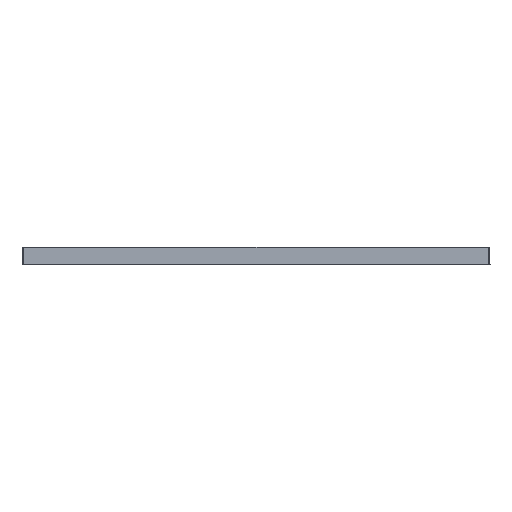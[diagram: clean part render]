
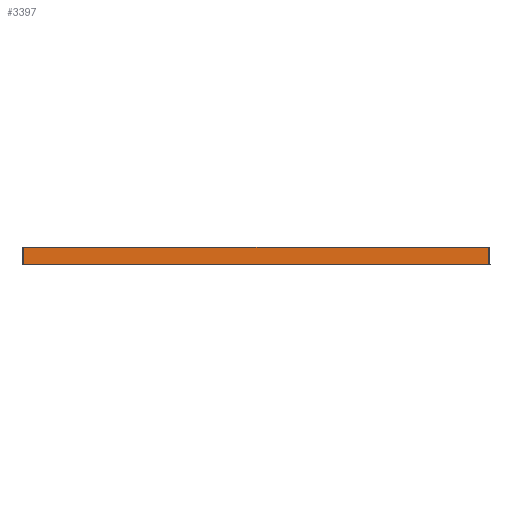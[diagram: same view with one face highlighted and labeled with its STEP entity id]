
A CAD part, front view. The second image highlights one B-rep face of the part: STEP entity #3397.
In plain terms, the highlighted planar face has unit normal (0, 1, -0.018).
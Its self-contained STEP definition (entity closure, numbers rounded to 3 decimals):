
#20 = CARTESIAN_POINT ( 'NONE',  ( -66.34, -1316.935, -1.53 ) ) ;
#106 = CARTESIAN_POINT ( 'NONE',  ( 33.155, -1316.935, -1.498 ) ) ;
#139 = CARTESIAN_POINT ( 'NONE',  ( -398.786, -1317.432, -30. ) ) ;
#433 = ORIENTED_EDGE ( 'NONE', *, *, #2285, .T. ) ;
#522 = ORIENTED_EDGE ( 'NONE', *, *, #1275, .T. ) ;
#715 = CARTESIAN_POINT ( 'NONE',  ( 397.967, -1316.91, -0.09 ) ) ;
#744 = CARTESIAN_POINT ( 'NONE',  ( -397.967, -1316.91, -0.09 ) ) ;
#1275 = EDGE_CURVE ( 'NONE', #9301, #3707, #1724, .T. ) ;
#1429 = CARTESIAN_POINT ( 'NONE',  ( -132.67, -1316.938, -1.66 ) ) ;
#1724 = B_SPLINE_CURVE_WITH_KNOTS ( 'NONE', 3,
 ( #9474, #11850, #5309, #6803, #2490, #12206, #10704, #13539, #9218, #5474, #7872, #3915, #8051, #6709, #1429, #20, #16004, #106, #13275, #16091, #9567, #6532, #4177, #17246, #4002, #10877, #5389, #9303, #13189, #5141, #9393, #10541, #14766, #15916 ),
 .UNSPECIFIED., .F., .F.,
 ( 4, 2, 2, 2, 2, 2, 2, 2, 2, 2, 2, 2, 2, 2, 2, 2, 4 ),
 ( 0., 0.025, 0.05, 0.099, 0.124, 0.149, 0.199, 0.298, 0.398, 0.497, 0.597, 0.647, 0.672, 0.696, 0.746, 0.771, 0.796 ),
 .UNSPECIFIED. ) ;
#2226 = DIRECTION ( 'NONE',  ( 0.026, 0.017, 1. ) ) ;
#2244 = CARTESIAN_POINT ( 'NONE',  ( 398.003, -1316.91, -0.088 ) ) ;
#2278 = ORIENTED_EDGE ( 'NONE', *, *, #16770, .F. ) ;
#2285 = EDGE_CURVE ( 'NONE', #2766, #9675, #15757, .T. ) ;
#2389 = B_SPLINE_CURVE_WITH_KNOTS ( 'NONE', 3,
 ( #14932, #2828, #11134, #8124 ),
 .UNSPECIFIED., .F., .F.,
 ( 4, 4 ),
 ( 0., 0. ),
 .UNSPECIFIED. ) ;
#2490 = CARTESIAN_POINT ( 'NONE',  ( -356.525, -1316.935, -1.522 ) ) ;
#2502 = CARTESIAN_POINT ( 'NONE',  ( 0., -1316.507, 22.98 ) ) ;
#2761 = CARTESIAN_POINT ( 'NONE',  ( 440.864, -1317.432, -30. ) ) ;
#2766 = VERTEX_POINT ( 'NONE', #3231 ) ;
#2828 = CARTESIAN_POINT ( 'NONE',  ( -397.991, -1316.91, -0.089 ) ) ;
#3231 = CARTESIAN_POINT ( 'NONE',  ( 398.003, -1316.91, -0.088 ) ) ;
#3386 = CARTESIAN_POINT ( 'NONE',  ( 398.786, -1317.432, -30. ) ) ;
#3397 = ADVANCED_FACE ( 'NONE', ( #14603 ), #13376, .T. ) ;
#3707 = VERTEX_POINT ( 'NONE', #715 ) ;
#3915 = CARTESIAN_POINT ( 'NONE',  ( -232.165, -1316.944, -2.015 ) ) ;
#4002 = CARTESIAN_POINT ( 'NONE',  ( 265.313, -1316.946, -2.124 ) ) ;
#4177 = CARTESIAN_POINT ( 'NONE',  ( 232.148, -1316.944, -2.015 ) ) ;
#4277 = DIRECTION ( 'NONE',  ( 1., 0., 0. ) ) ;
#4612 = CARTESIAN_POINT ( 'NONE',  ( 397.967, -1316.91, -0.09 ) ) ;
#4880 = EDGE_CURVE ( 'NONE', #3707, #2766, #14947, .T. ) ;
#5141 = CARTESIAN_POINT ( 'NONE',  ( 356.515, -1316.935, -1.522 ) ) ;
#5309 = CARTESIAN_POINT ( 'NONE',  ( -381.391, -1316.922, -0.773 ) ) ;
#5389 = CARTESIAN_POINT ( 'NONE',  ( 290.187, -1316.946, -2.162 ) ) ;
#5474 = CARTESIAN_POINT ( 'NONE',  ( -265.33, -1316.946, -2.125 ) ) ;
#5569 = CARTESIAN_POINT ( 'NONE',  ( 397.991, -1316.91, -0.089 ) ) ;
#6460 = ORIENTED_EDGE ( 'NONE', *, *, #11238, .T. ) ;
#6532 = CARTESIAN_POINT ( 'NONE',  ( 215.565, -1316.943, -1.947 ) ) ;
#6544 = DIRECTION ( 'NONE',  ( 0., 0.017, 1. ) ) ;
#6709 = CARTESIAN_POINT ( 'NONE',  ( -165.835, -1316.939, -1.76 ) ) ;
#6803 = CARTESIAN_POINT ( 'NONE',  ( -364.814, -1316.931, -1.308 ) ) ;
#7023 = CARTESIAN_POINT ( 'NONE',  ( -398.003, -1316.91, -0.088 ) ) ;
#7026 = VERTEX_POINT ( 'NONE', #139 ) ;
#7082 = EDGE_LOOP ( 'NONE', ( #13468, #522, #13043, #433, #2278, #6460 ) ) ;
#7093 = VERTEX_POINT ( 'NONE', #7023 ) ;
#7872 = CARTESIAN_POINT ( 'NONE',  ( -257.039, -1316.945, -2.1 ) ) ;
#7880 = DIRECTION ( 'NONE',  ( 0., 1., -0.017 ) ) ;
#8051 = CARTESIAN_POINT ( 'NONE',  ( -215.583, -1316.943, -1.947 ) ) ;
#8124 = CARTESIAN_POINT ( 'NONE',  ( -397.967, -1316.91, -0.09 ) ) ;
#9218 = CARTESIAN_POINT ( 'NONE',  ( -281.912, -1316.946, -2.156 ) ) ;
#9301 = VERTEX_POINT ( 'NONE', #744 ) ;
#9303 = CARTESIAN_POINT ( 'NONE',  ( 315.061, -1316.946, -2.118 ) ) ;
#9393 = CARTESIAN_POINT ( 'NONE',  ( 364.806, -1316.931, -1.308 ) ) ;
#9474 = CARTESIAN_POINT ( 'NONE',  ( -397.967, -1316.91, -0.09 ) ) ;
#9567 = CARTESIAN_POINT ( 'NONE',  ( 165.817, -1316.939, -1.76 ) ) ;
#9675 = VERTEX_POINT ( 'NONE', #3386 ) ;
#10019 = CARTESIAN_POINT ( 'NONE',  ( 397.979, -1316.91, -0.089 ) ) ;
#10362 = LINE ( 'NONE', #17151, #12472 ) ;
#10541 = CARTESIAN_POINT ( 'NONE',  ( 381.386, -1316.922, -0.773 ) ) ;
#10704 = CARTESIAN_POINT ( 'NONE',  ( -315.075, -1316.946, -2.118 ) ) ;
#10877 = CARTESIAN_POINT ( 'NONE',  ( 281.896, -1316.946, -2.156 ) ) ;
#11134 = CARTESIAN_POINT ( 'NONE',  ( -397.979, -1316.91, -0.089 ) ) ;
#11238 = EDGE_CURVE ( 'NONE', #7026, #7093, #10362, .T. ) ;
#11696 = DIRECTION ( 'NONE',  ( 0.026, -0.017, -1. ) ) ;
#11850 = CARTESIAN_POINT ( 'NONE',  ( -389.679, -1316.916, -0.452 ) ) ;
#12206 = CARTESIAN_POINT ( 'NONE',  ( -331.656, -1316.944, -2.005 ) ) ;
#12472 = VECTOR ( 'NONE', #2226, 1000. ) ;
#13043 = ORIENTED_EDGE ( 'NONE', *, *, #4880, .T. ) ;
#13065 = EDGE_CURVE ( 'NONE', #7093, #9301, #2389, .T. ) ;
#13189 = CARTESIAN_POINT ( 'NONE',  ( 331.643, -1316.944, -2.005 ) ) ;
#13275 = CARTESIAN_POINT ( 'NONE',  ( 66.32, -1316.935, -1.53 ) ) ;
#13376 = PLANE ( 'NONE',  #15817 ) ;
#13462 = LINE ( 'NONE', #2761, #17286 ) ;
#13468 = ORIENTED_EDGE ( 'NONE', *, *, #13065, .T. ) ;
#13539 = CARTESIAN_POINT ( 'NONE',  ( -290.203, -1316.946, -2.162 ) ) ;
#13568 = VECTOR ( 'NONE', #11696, 1000. ) ;
#14603 = FACE_OUTER_BOUND ( 'NONE', #7082, .T. ) ;
#14766 = CARTESIAN_POINT ( 'NONE',  ( 389.677, -1316.916, -0.452 ) ) ;
#14932 = CARTESIAN_POINT ( 'NONE',  ( -398.003, -1316.91, -0.088 ) ) ;
#14947 = B_SPLINE_CURVE_WITH_KNOTS ( 'NONE', 3,
 ( #4612, #10019, #5569, #15397 ),
 .UNSPECIFIED., .F., .F.,
 ( 4, 4 ),
 ( 0., 0. ),
 .UNSPECIFIED. ) ;
#15397 = CARTESIAN_POINT ( 'NONE',  ( 398.003, -1316.91, -0.088 ) ) ;
#15757 = LINE ( 'NONE', #2244, #13568 ) ;
#15817 = AXIS2_PLACEMENT_3D ( 'NONE', #2502, #7880, #6544 ) ;
#15916 = CARTESIAN_POINT ( 'NONE',  ( 397.967, -1316.91, -0.09 ) ) ;
#16004 = CARTESIAN_POINT ( 'NONE',  ( -33.175, -1316.935, -1.498 ) ) ;
#16091 = CARTESIAN_POINT ( 'NONE',  ( 132.651, -1316.938, -1.66 ) ) ;
#16770 = EDGE_CURVE ( 'NONE', #7026, #9675, #13462, .T. ) ;
#17151 = CARTESIAN_POINT ( 'NONE',  ( -398.786, -1317.432, -30. ) ) ;
#17246 = CARTESIAN_POINT ( 'NONE',  ( 257.022, -1316.945, -2.099 ) ) ;
#17286 = VECTOR ( 'NONE', #4277, 1000. ) ;
